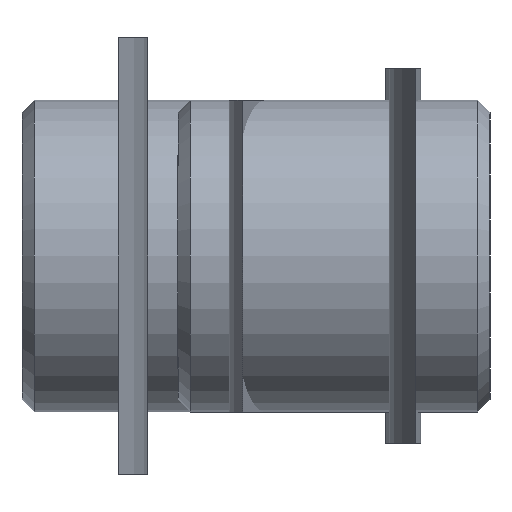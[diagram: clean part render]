
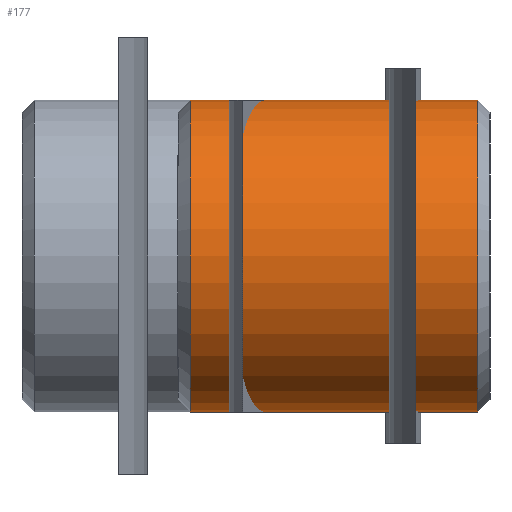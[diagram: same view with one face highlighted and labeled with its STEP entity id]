
A CAD part, left-side view. The second image highlights one B-rep face of the part: STEP entity #177.
In plain terms, the highlighted cylindrical face has radius 25 mm (diameter 50 mm), a partial arc.
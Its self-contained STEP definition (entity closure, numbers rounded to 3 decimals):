
#5 = EDGE_CURVE ( 'NONE', #528, #270, #18, .T. ) ;
#9 = AXIS2_PLACEMENT_3D ( 'NONE', #550, #388, #500 ) ;
#18 = LINE ( 'NONE', #482, #432 ) ;
#22 = CARTESIAN_POINT ( 'NONE',  ( 0., 2., -25. ) ) ;
#24 = DIRECTION ( 'NONE',  ( 0., -1., 0. ) ) ;
#29 = CARTESIAN_POINT ( 'NONE',  ( 0., 50., 25. ) ) ;
#79 = DIRECTION ( 'NONE',  ( 0., 0., 1. ) ) ;
#84 = EDGE_CURVE ( 'NONE', #364, #185, #547, .T. ) ;
#96 = CYLINDRICAL_SURFACE ( 'NONE', #9, 25. ) ;
#114 = AXIS2_PLACEMENT_3D ( 'NONE', #190, #393, #600 ) ;
#126 = CIRCLE ( 'NONE', #114, 25. ) ;
#132 = EDGE_CURVE ( 'NONE', #270, #185, #126, .T. ) ;
#176 = EDGE_LOOP ( 'NONE', ( #587, #313, #586, #422 ) ) ;
#177 = ADVANCED_FACE ( 'NONE', ( #342 ), #96, .T. ) ;
#185 = VERTEX_POINT ( 'NONE', #244 ) ;
#190 = CARTESIAN_POINT ( 'NONE',  ( 0., 2., 0. ) ) ;
#244 = CARTESIAN_POINT ( 'NONE',  ( 0., 2., 25. ) ) ;
#254 = CARTESIAN_POINT ( 'NONE',  ( 0., 48., 25. ) ) ;
#270 = VERTEX_POINT ( 'NONE', #22 ) ;
#313 = ORIENTED_EDGE ( 'NONE', *, *, #646, .T. ) ;
#342 = FACE_OUTER_BOUND ( 'NONE', #176, .T. ) ;
#364 = VERTEX_POINT ( 'NONE', #254 ) ;
#388 = DIRECTION ( 'NONE',  ( 0., -1., 0. ) ) ;
#393 = DIRECTION ( 'NONE',  ( 0., 1., 0. ) ) ;
#398 = DIRECTION ( 'NONE',  ( 0., -1., 0. ) ) ;
#411 = CIRCLE ( 'NONE', #507, 25. ) ;
#422 = ORIENTED_EDGE ( 'NONE', *, *, #132, .T. ) ;
#432 = VECTOR ( 'NONE', #24, 1000. ) ;
#474 = VECTOR ( 'NONE', #398, 1000. ) ;
#478 = CARTESIAN_POINT ( 'NONE',  ( 0., 48., 0. ) ) ;
#482 = CARTESIAN_POINT ( 'NONE',  ( 0., 50., -25. ) ) ;
#489 = DIRECTION ( 'NONE',  ( 0., -1., 0. ) ) ;
#500 = DIRECTION ( 'NONE',  ( 0., 0., -1. ) ) ;
#507 = AXIS2_PLACEMENT_3D ( 'NONE', #478, #489, #79 ) ;
#528 = VERTEX_POINT ( 'NONE', #558 ) ;
#547 = LINE ( 'NONE', #29, #474 ) ;
#550 = CARTESIAN_POINT ( 'NONE',  ( 0., 50., 0. ) ) ;
#558 = CARTESIAN_POINT ( 'NONE',  ( 0., 48., -25. ) ) ;
#586 = ORIENTED_EDGE ( 'NONE', *, *, #5, .T. ) ;
#587 = ORIENTED_EDGE ( 'NONE', *, *, #84, .F. ) ;
#600 = DIRECTION ( 'NONE',  ( 0., 0., 1. ) ) ;
#646 = EDGE_CURVE ( 'NONE', #364, #528, #411, .T. ) ;
